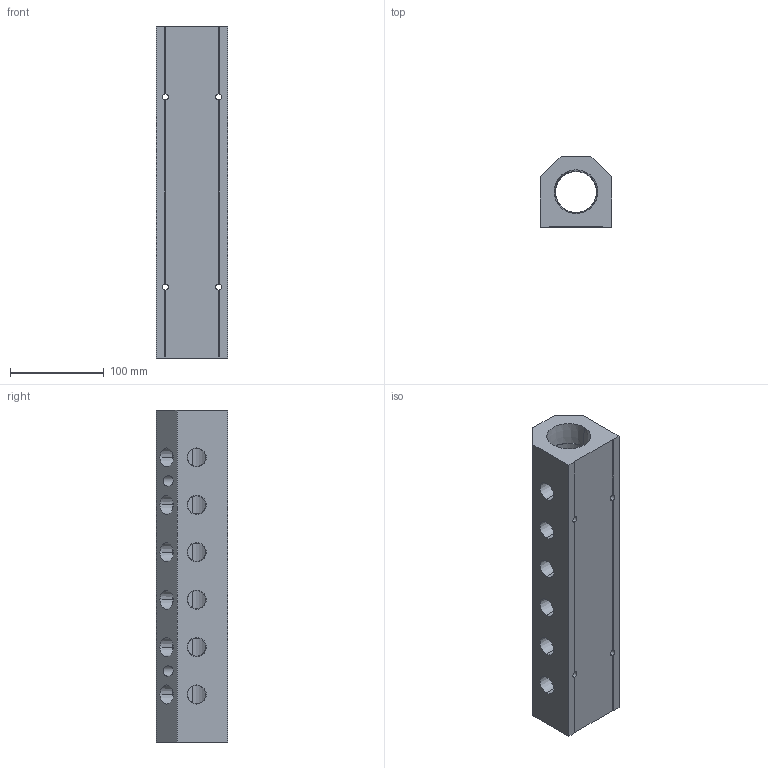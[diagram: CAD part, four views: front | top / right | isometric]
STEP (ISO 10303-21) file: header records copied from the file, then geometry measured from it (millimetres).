
FILE_DESCRIPTION (( 'STEP AP214' ), '1' );
FILE_NAME ('ALM6AB-N8N24-355R.step', '2022-02-07T09:23:23', ( '' ), ( '' ), 'SwSTEP 2.0', 'SolidWorks 2020', '' );
FILE_SCHEMA (( 'AUTOMOTIVE_DESIGN' ));
Length unit declared in the file: millimetre
Products named in the file (1): ALM6AB-N8N24-355R
Bounding box: 76.2 x 76.2 x 355 mm (x, y, z)
Volume: 1256126.2 mm3; surface area: 166807.2 mm2
Topology: 1 solids, 1 shells, 335 faces, 907 edges, 602 vertices
Faces by surface type: plane 210, bspline 79, cone 28, cylinder 18
Entity records: 19386 total; most frequent: CARTESIAN_POINT 8310, ORIENTED_EDGE 1814, DIRECTION 1271, EDGE_CURVE 907, LINE 637, VECTOR 637, VERTEX_POINT 602, EDGE_LOOP 397
